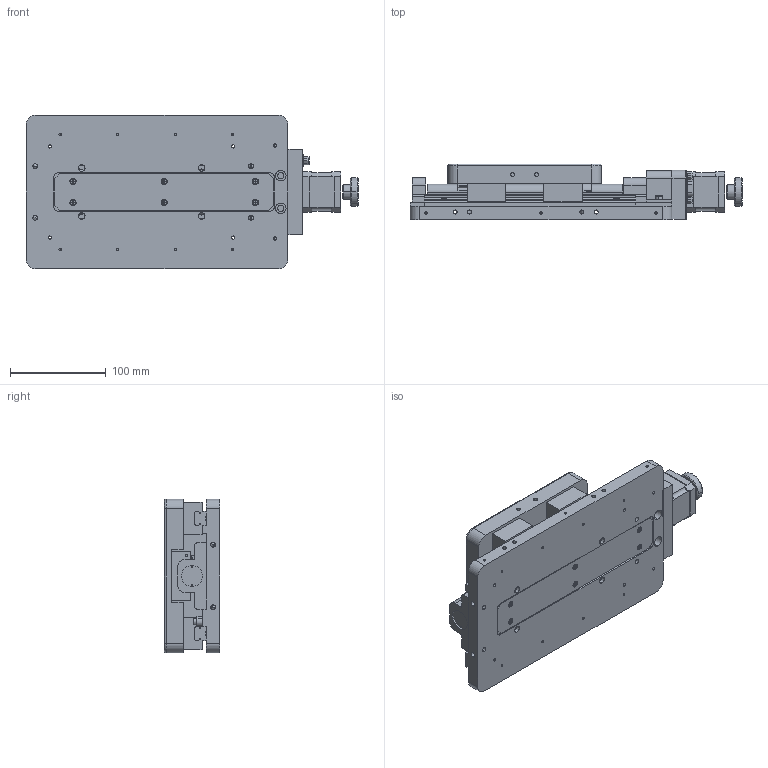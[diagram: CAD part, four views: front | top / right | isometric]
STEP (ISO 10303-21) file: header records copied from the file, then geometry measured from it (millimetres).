
FILE_DESCRIPTION (( 'STEP AP203' ), '1' );
FILE_NAME ('7STA0350B萇雄す痄怢.STEP', '2022-07-07T08:30:36', ( '' ), ( '' ), 'SwSTEP 2.0', 'SolidWorks 2018', '' );
FILE_SCHEMA (( 'CONFIG_CONTROL_DESIGN' ));
Length unit declared in the file: millimetre
Products named in the file (1): 7STA0350B萇雄す痄怢
Bounding box: 346 x 58 x 160 mm (x, y, z)
Surface area: 275695.4 mm2 (no closed solid volume)
Topology: 0 solids, 106 shells, 1146 faces, 3933 edges, 2792 vertices
Faces by surface type: plane 559, cylinder 420, torus 77, cone 66, sphere 24
Entity records: 42800 total; most frequent: CARTESIAN_POINT 8549, DIRECTION 7528, ORIENTED_EDGE 6066, EDGE_CURVE 3853, VERTEX_POINT 2768, AXIS2_PLACEMENT_3D 2667, LINE 2194, VECTOR 2194
